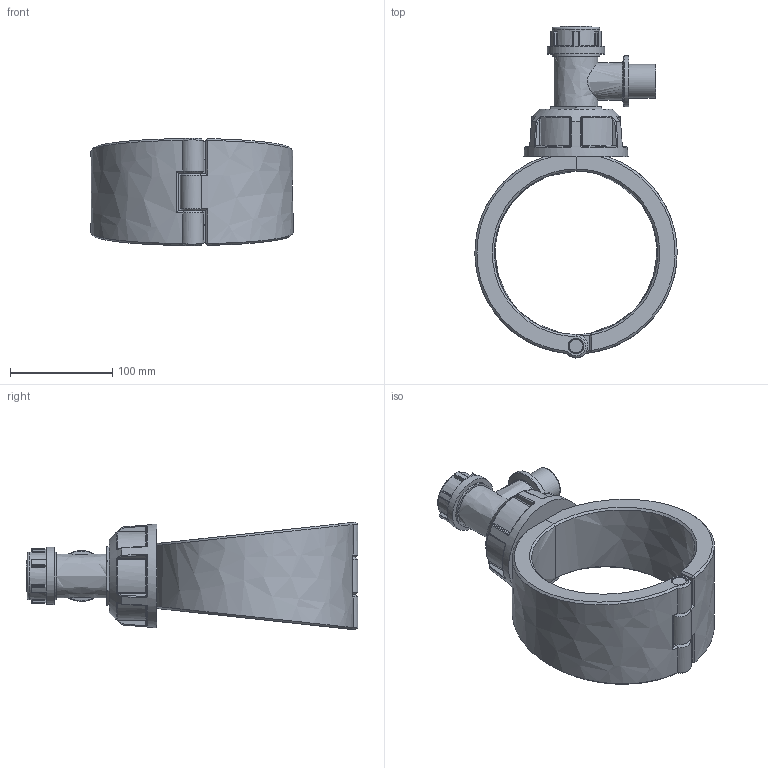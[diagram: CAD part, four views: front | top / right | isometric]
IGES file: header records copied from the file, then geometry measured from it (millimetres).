
Global section: file name: 1631R0160010; native system: Autodesk Inventor 2019; preprocessor: unknown; author: comp2; date: 20220203.120649; units: millimetre
Bounding box: 197.99 x 325 x 105.57 mm (x, y, z)
Volume: 1351083.2 mm3; surface area: 181059 mm2
Topology: 4 solids, 4 shells, 341 faces, 833 edges, 509 vertices
Faces by surface type: bspline 341
